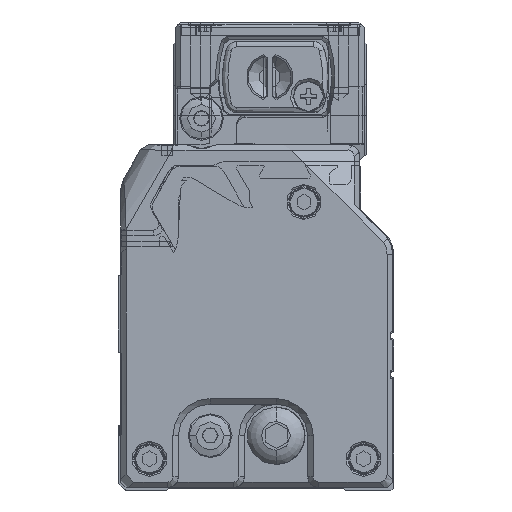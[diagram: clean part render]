
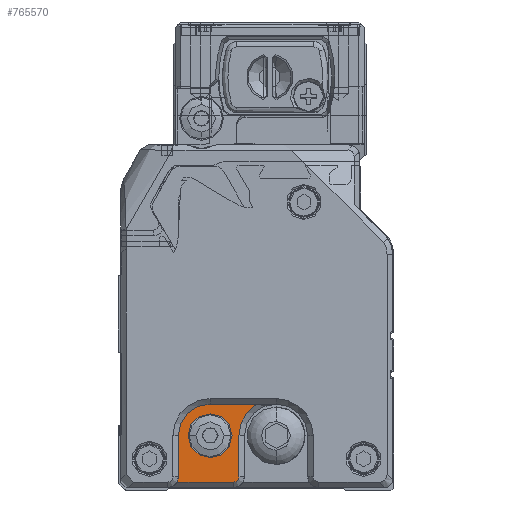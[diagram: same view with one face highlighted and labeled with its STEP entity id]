
A CAD part, left-side view. The second image highlights one B-rep face of the part: STEP entity #765570.
In plain terms, the highlighted planar face has unit normal (-1, 0, 0) as drawn and (1, 0, 0) by its records, which use the part's own axes.
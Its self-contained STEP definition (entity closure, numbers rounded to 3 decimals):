
#764020=CARTESIAN_POINT('',(5664.177,2.462,
3.148));
#764030=DIRECTION('',(-1.,0.,0.));
#764040=DIRECTION('',(0.,1.,0.));
#764050=AXIS2_PLACEMENT_3D('',#764020,#764030,#764040);
#764060=CIRCLE('',#764050,5.75);
#764070=CARTESIAN_POINT('',(5664.177,8.212,
3.148));
#764080=VERTEX_POINT('',#764070);
#764090=CARTESIAN_POINT('',(5664.177,2.462,
-2.602));
#764100=VERTEX_POINT('',#764090);
#764110=EDGE_CURVE('',#764080,#764100,#764060,.T.);
#764520=CARTESIAN_POINT('',(5664.177,8.212,
3.148));
#764530=DIRECTION('',(0.,0.,1.));
#764540=VECTOR('',#764530,1.);
#764550=LINE('',#764520,#764540);
#764560=CARTESIAN_POINT('',(5664.177,8.212,
10.598));
#764570=VERTEX_POINT('',#764560);
#764580=EDGE_CURVE('',#764080,#764570,#764550,.T.);
#764840=CARTESIAN_POINT('',(5664.177,-5.938,
-12.8));
#764850=DIRECTION('',(-1.,0.,0.));
#764860=DIRECTION('',(0.,0.,-1.));
#764870=AXIS2_PLACEMENT_3D('',#764840,#764850,#764860);
#764880=PLANE('',#764870);
#764890=CARTESIAN_POINT('',(5664.177,4.212,
11.598));
#764900=DIRECTION('',(0.,-1.,0.));
#764910=VECTOR('',#764900,1.);
#764920=LINE('',#764890,#764910);
#764930=CARTESIAN_POINT('',(5664.177,8.48,
11.598));
#764940=VERTEX_POINT('',#764930);
#764950=CARTESIAN_POINT('',(5664.177,-1.788,
11.598));
#764960=VERTEX_POINT('',#764950);
#764970=EDGE_CURVE('',#764940,#764960,#764920,.T.);
#764980=ORIENTED_EDGE('',*,*,#764970,.T.);
#764990=CARTESIAN_POINT('',(5664.177,10.212,
10.598));
#765000=DIRECTION('',(-1.,0.,0.));
#765010=DIRECTION('',(0.,1.,0.));
#765020=AXIS2_PLACEMENT_3D('',#764990,#765000,#765010);
#765030=CIRCLE('',#765020,2.);
#765040=EDGE_CURVE('',#764570,#764940,#765030,.T.);
#765050=ORIENTED_EDGE('',*,*,#765040,.T.);
#765060=ORIENTED_EDGE('',*,*,#764580,.T.);
#765070=ORIENTED_EDGE('',*,*,#764110,.F.);
#765080=CARTESIAN_POINT('',(5664.177,-5.888,
-2.602));
#765090=DIRECTION('',(0.,1.,0.));
#765100=VECTOR('',#765090,1.);
#765110=LINE('',#765080,#765100);
#765120=CARTESIAN_POINT('',(5664.177,-6.002,
-2.602));
#765130=VERTEX_POINT('',#765120);
#765140=EDGE_CURVE('',#765130,#764100,#765110,.T.);
#765150=ORIENTED_EDGE('',*,*,#765140,.T.);
#765160=CARTESIAN_POINT('',(5664.177,-9.538,
3.148));
#765170=DIRECTION('',(-1.,0.,0.));
#765180=DIRECTION('',(0.,1.,0.));
#765190=AXIS2_PLACEMENT_3D('',#765160,#765170,#765180);
#765200=CIRCLE('',#765190,6.75);
#765210=CARTESIAN_POINT('',(5664.177,-2.788,
3.148));
#765220=VERTEX_POINT('',#765210);
#765230=EDGE_CURVE('',#765220,#765130,#765200,.T.);
#765240=ORIENTED_EDGE('',*,*,#765230,.T.);
#765250=CARTESIAN_POINT('',(5664.177,-2.788,
6.873));
#765260=DIRECTION('',(0.,0.,-1.));
#765270=VECTOR('',#765260,1.);
#765280=LINE('',#765250,#765270);
#765290=CARTESIAN_POINT('',(5664.177,-2.788,
10.598));
#765300=VERTEX_POINT('',#765290);
#765310=EDGE_CURVE('',#765300,#765220,#765280,.T.);
#765320=ORIENTED_EDGE('',*,*,#765310,.T.);
#765330=CARTESIAN_POINT('',(5664.177,-1.788,
10.598));
#765340=DIRECTION('',(-1.,0.,0.));
#765350=DIRECTION('',(0.,1.,0.));
#765360=AXIS2_PLACEMENT_3D('',#765330,#765340,#765350);
#765370=CIRCLE('',#765360,1.);
#765380=EDGE_CURVE('',#765300,#764960,#765370,.T.);
#765390=ORIENTED_EDGE('',*,*,#765380,.F.);
#765400=EDGE_LOOP('',(#765390,#765320,#765240,#765150,#765070,#765060,
#765050,#764980));
#765410=FACE_OUTER_BOUND('',#765400,.T.);
#765420=CARTESIAN_POINT('',(5664.177,2.462,
3.148));
#765430=DIRECTION('',(-1.,0.,0.));
#765440=DIRECTION('',(0.,0.,-1.));
#765450=AXIS2_PLACEMENT_3D('',#765420,#765430,#765440);
#765460=CIRCLE('',#765450,4.);
#765470=CARTESIAN_POINT('',(5664.177,2.462,
7.148));
#765480=VERTEX_POINT('',#765470);
#765490=CARTESIAN_POINT('',(5664.177,2.462,
-0.852));
#765500=VERTEX_POINT('',#765490);
#765510=EDGE_CURVE('',#765480,#765500,#765460,.T.);
#765520=ORIENTED_EDGE('',*,*,#765510,.T.);
#765530=EDGE_CURVE('',#765500,#765480,#765460,.T.);
#765540=ORIENTED_EDGE('',*,*,#765530,.T.);
#765550=EDGE_LOOP('',(#765540,#765520));
#765560=FACE_BOUND('',#765550,.T.);
#765570=ADVANCED_FACE('',(#765410,#765560),#764880,.F.);
